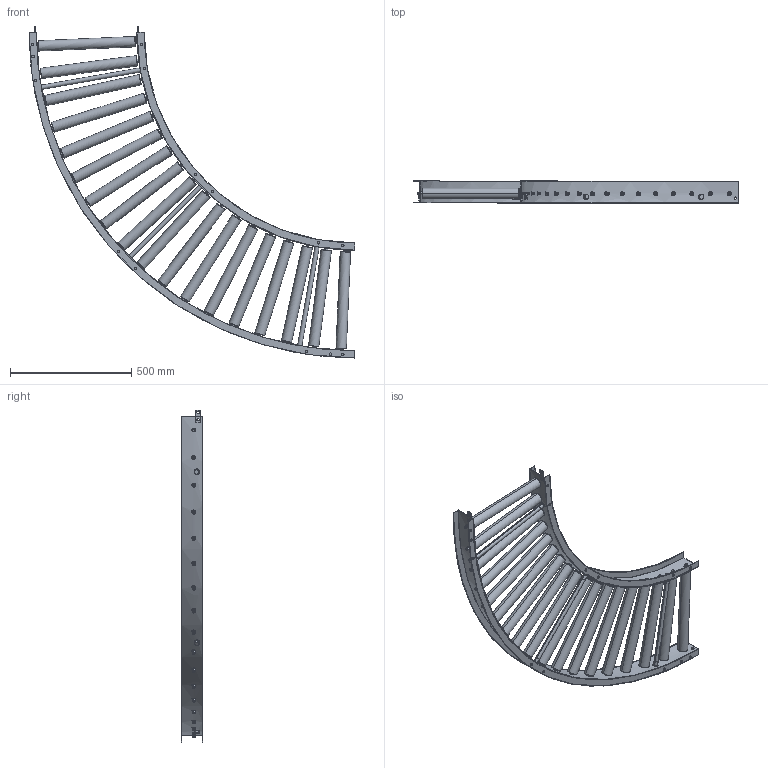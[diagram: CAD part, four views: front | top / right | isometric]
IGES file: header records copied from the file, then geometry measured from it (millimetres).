
Start section: SolidWorks IGES file using analytic representation for surfaces
Global section: file name: C:\Users\0656\Desktop\変換ツール\iges変換\R-4214PG_C.igs; native system: SolidWorks 2023; preprocessor: SolidWorks 2023; author: 0656; date: 240315.111822; units: millimetre
Bounding box: 1345 x 90 x 1370.08 mm (x, y, z)
Surface area: 2996969.5 mm2 (no closed solid volume)
Topology: 0 solids, 0 shells, 820 faces, 17884 edges, 17884 vertices
Faces by surface type: revolution 442, bspline 378
